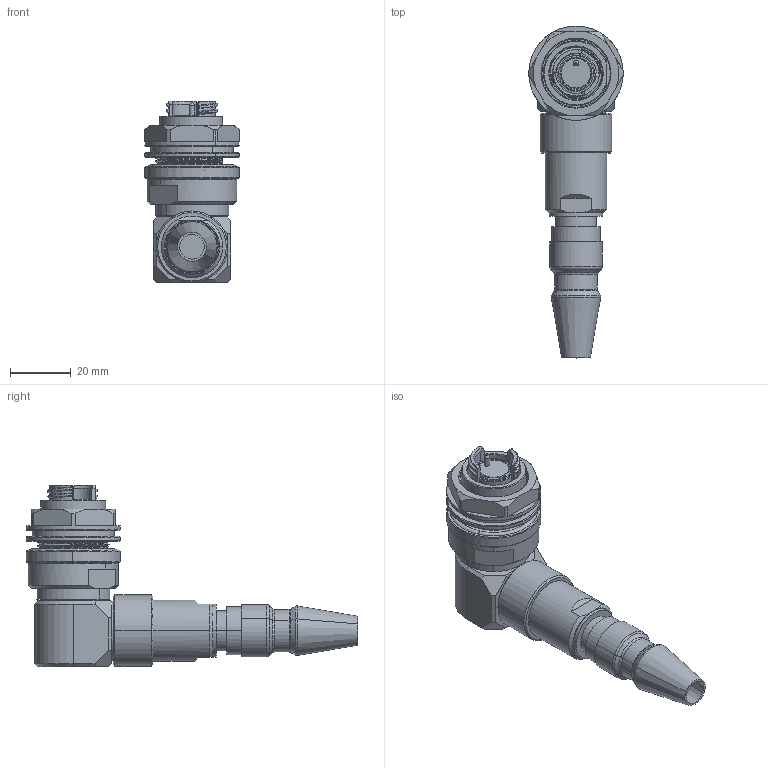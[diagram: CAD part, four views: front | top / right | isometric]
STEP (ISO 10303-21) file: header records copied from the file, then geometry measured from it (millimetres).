
FILE_DESCRIPTION (( 'STEP AP214' ), '1' );
FILE_NAME ('QMICRO90S-RJXX-XXXX-S95.STEP', '2025-05-02T23:40:12', ( '' ), ( '' ), 'SwSTEP 2.0', 'SolidWorks 2024', '' );
FILE_SCHEMA (( 'AUTOMOTIVE_DESIGN' ));
Length unit declared in the file: inch
Products named in the file (1): QMICRO90S-RJXX-XXXX-S95
Bounding box: 31 x 109 x 59.69 mm (x, y, z)
Volume: 47883.4 mm3; surface area: 17884.8 mm2
Topology: 1 solids, 6 shells, 409 faces, 1050 edges, 671 vertices
Faces by surface type: cylinder 152, plane 94, cone 83, bspline 50, torus 30
Entity records: 24919 total; most frequent: CARTESIAN_POINT 15672, ORIENTED_EDGE 2100, DIRECTION 1778, EDGE_CURVE 1050, AXIS2_PLACEMENT_3D 711, VERTEX_POINT 671, EDGE_LOOP 443, ADVANCED_FACE 409
